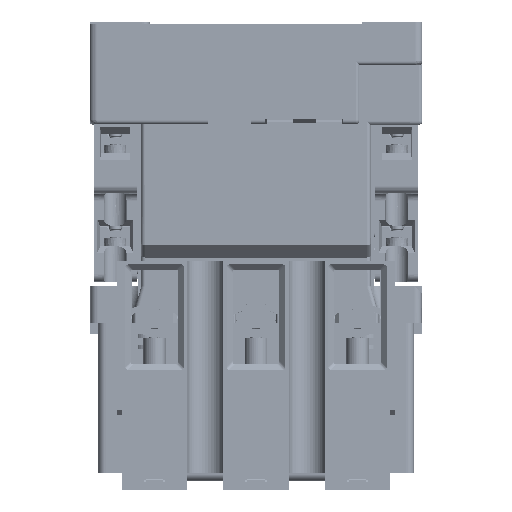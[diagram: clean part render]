
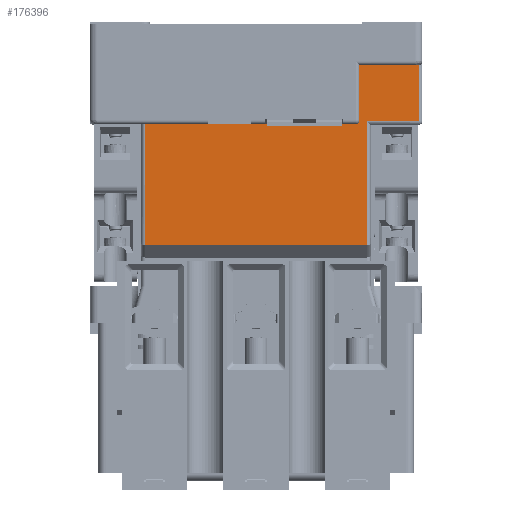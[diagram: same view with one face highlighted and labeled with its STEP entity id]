
A CAD part, front view. The second image highlights one B-rep face of the part: STEP entity #176396.
In plain terms, the highlighted planar face has unit normal (0, -1, 0).
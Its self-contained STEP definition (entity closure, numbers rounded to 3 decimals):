
#162456=DIRECTION('',(0.,0.,1.));
#162457=VECTOR('',#162456,32.2);
#162458=CARTESIAN_POINT('',(3.,-3.25,18.1));
#162459=LINE('',#162458,#162457);
#162603=DIRECTION('',(0.,0.,-1.));
#162604=VECTOR('',#162603,14.9);
#162605=CARTESIAN_POINT('',(75.75,-3.25,66.));
#162606=LINE('',#162605,#162604);
#162611=DIRECTION('',(-1.,0.,0.));
#162612=VECTOR('',#162611,56.);
#162613=CARTESIAN_POINT('',(59.,-3.25,50.3));
#162614=LINE('',#162613,#162612);
#162615=CARTESIAN_POINT('',(59.,-3.25,51.3));
#162616=DIRECTION('',(0.,1.,0.));
#162617=DIRECTION('',(1.,0.,0.));
#162618=AXIS2_PLACEMENT_3D('',#162615,#162616,#162617);
#162620=DIRECTION('',(0.,0.,-1.));
#162621=VECTOR('',#162620,14.7);
#162622=CARTESIAN_POINT('',(60.,-3.25,66.));
#162623=LINE('',#162622,#162621);
#162624=DIRECTION('',(-1.,0.,0.));
#162625=VECTOR('',#162624,15.75);
#162626=CARTESIAN_POINT('',(75.75,-3.25,66.));
#162627=LINE('',#162626,#162625);
#162632=DIRECTION('',(-1.,0.,0.));
#162633=VECTOR('',#162632,13.75);
#162634=CARTESIAN_POINT('',(75.75,-3.25,51.1));
#162635=LINE('',#162634,#162633);
#162729=DIRECTION('',(0.,0.,-1.));
#162730=VECTOR('',#162729,33.);
#162731=CARTESIAN_POINT('',(62.,-3.25,51.1));
#162732=LINE('',#162731,#162730);
#169001=DIRECTION('',(-1.,0.,0.));
#169002=VECTOR('',#169001,59.);
#169003=CARTESIAN_POINT('',(62.,-3.25,18.1));
#169004=LINE('',#169003,#169002);
#169963=CARTESIAN_POINT('',(60.,-3.25,66.));
#169964=VERTEX_POINT('',#169963);
#169965=CARTESIAN_POINT('',(75.75,-3.25,66.));
#169966=VERTEX_POINT('',#169965);
#170025=CARTESIAN_POINT('',(3.,-3.25,50.3));
#170026=VERTEX_POINT('',#170025);
#170027=CARTESIAN_POINT('',(59.,-3.25,50.3));
#170028=VERTEX_POINT('',#170027);
#170429=CARTESIAN_POINT('',(75.75,-3.25,51.1));
#170430=CARTESIAN_POINT('',(62.,-3.25,51.1));
#170431=VERTEX_POINT('',#170429);
#170432=VERTEX_POINT('',#170430);
#170433=CARTESIAN_POINT('',(60.,-3.25,51.3));
#170434=VERTEX_POINT('',#170433);
#170435=CARTESIAN_POINT('',(3.,-3.25,18.1));
#170436=VERTEX_POINT('',#170435);
#170437=CARTESIAN_POINT('',(62.,-3.25,18.1));
#170438=VERTEX_POINT('',#170437);
#176375=CARTESIAN_POINT('',(2.,-3.25,18.1));
#176376=DIRECTION('',(0.,1.,0.));
#176377=DIRECTION('',(0.,0.,1.));
#176378=AXIS2_PLACEMENT_3D('',#176375,#176376,#176377);
#176379=PLANE('',#176378);
#176381=ORIENTED_EDGE('',*,*,#176380,.T.);
#176383=ORIENTED_EDGE('',*,*,#176382,.T.);
#176385=ORIENTED_EDGE('',*,*,#176384,.T.);
#176386=ORIENTED_EDGE('',*,*,#176153,.T.);
#176387=ORIENTED_EDGE('',*,*,#176187,.F.);
#176389=ORIENTED_EDGE('',*,*,#176388,.F.);
#176391=ORIENTED_EDGE('',*,*,#176390,.F.);
#176392=ORIENTED_EDGE('',*,*,#176308,.F.);
#176393=ORIENTED_EDGE('',*,*,#176366,.T.);
#176394=EDGE_LOOP('',(#176381,#176383,#176385,#176386,#176387,#176389,#176391,
#176392,#176393));
#176395=FACE_OUTER_BOUND('',#176394,.F.);
#176396=ADVANCED_FACE('',(#176395),#176379,.F.);
#162619=CIRCLE('',#162618,1.);
#176153=EDGE_CURVE('',#170436,#170026,#162459,.T.);
#176187=EDGE_CURVE('',#170028,#170026,#162614,.T.);
#176308=EDGE_CURVE('',#169966,#169964,#162627,.T.);
#176366=EDGE_CURVE('',#169966,#170431,#162606,.T.);
#176380=EDGE_CURVE('',#170431,#170432,#162635,.T.);
#176382=EDGE_CURVE('',#170432,#170438,#162732,.T.);
#176384=EDGE_CURVE('',#170438,#170436,#169004,.T.);
#176388=EDGE_CURVE('',#170434,#170028,#162619,.T.);
#176390=EDGE_CURVE('',#169964,#170434,#162623,.T.);
